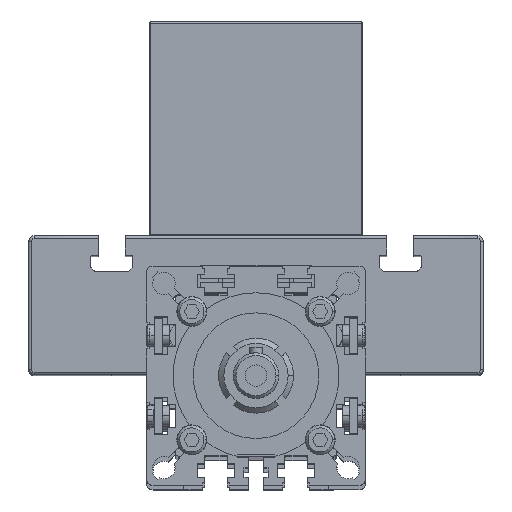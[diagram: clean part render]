
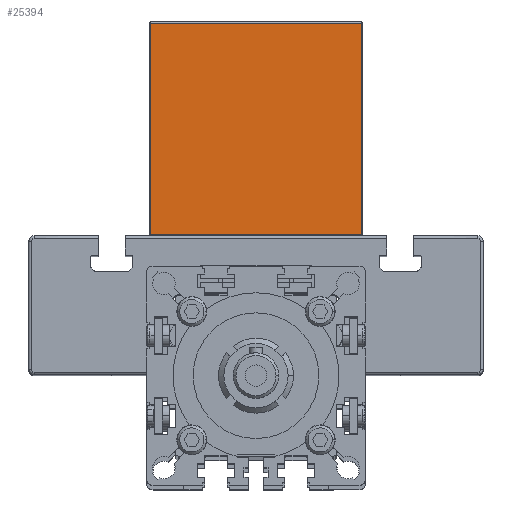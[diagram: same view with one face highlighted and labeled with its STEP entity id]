
A CAD part, top view. The second image highlights one B-rep face of the part: STEP entity #25394.
In plain terms, the highlighted planar face has unit normal (0, 0, 1) as drawn and (0, 0, -1) by its records, which use the part's own axes.
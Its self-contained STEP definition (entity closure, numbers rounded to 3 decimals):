
#2024 = ORIENTED_EDGE ( 'NONE', *, *, #29422, .T. ) ;
#2273 = ORIENTED_EDGE ( 'NONE', *, *, #8735, .T. ) ;
#2454 = AXIS2_PLACEMENT_3D ( 'NONE', #6041, #14232, #17527 ) ;
#2479 = VERTEX_POINT ( 'NONE', #38007 ) ;
#3047 = VERTEX_POINT ( 'NONE', #21881 ) ;
#3785 = CARTESIAN_POINT ( 'NONE',  ( 0., 0.5, -65. ) ) ;
#5217 = CARTESIAN_POINT ( 'NONE',  ( 80., 79.5, -65. ) ) ;
#5749 = LINE ( 'NONE', #8491, #8841 ) ;
#6041 = CARTESIAN_POINT ( 'NONE',  ( 80., 0., -65. ) ) ;
#6370 = ORIENTED_EDGE ( 'NONE', *, *, #21994, .T. ) ;
#8389 = PLANE ( 'NONE',  #2454 ) ;
#8491 = CARTESIAN_POINT ( 'NONE',  ( 79.5, 0., -65. ) ) ;
#8735 = EDGE_CURVE ( 'NONE', #3047, #2479, #37005, .T. ) ;
#8841 = VECTOR ( 'NONE', #20381, 1000. ) ;
#10775 = VERTEX_POINT ( 'NONE', #31183 ) ;
#13971 = LINE ( 'NONE', #29639, #27473 ) ;
#14232 = DIRECTION ( 'NONE',  ( 0., 0., 1. ) ) ;
#17527 = DIRECTION ( 'NONE',  ( 1., 0., 0. ) ) ;
#19696 = CARTESIAN_POINT ( 'NONE',  ( 0.5, 79.5, -65. ) ) ;
#20381 = DIRECTION ( 'NONE',  ( 0., -1., 0. ) ) ;
#21535 = VECTOR ( 'NONE', #25263, 1000. ) ;
#21881 = CARTESIAN_POINT ( 'NONE',  ( 79.5, 0.5, -65. ) ) ;
#21994 = EDGE_CURVE ( 'NONE', #28871, #10775, #32000, .T. ) ;
#23030 = ORIENTED_EDGE ( 'NONE', *, *, #35156, .T. ) ;
#25263 = DIRECTION ( 'NONE',  ( -1., 0., 0. ) ) ;
#25394 = ADVANCED_FACE ( 'NONE', ( #25999 ), #8389, .F. ) ;
#25924 = DIRECTION ( 'NONE',  ( 0., 1., 0. ) ) ;
#25999 = FACE_OUTER_BOUND ( 'NONE', #26286, .T. ) ;
#26286 = EDGE_LOOP ( 'NONE', ( #23030, #2273, #2024, #6370 ) ) ;
#27473 = VECTOR ( 'NONE', #25924, 1000. ) ;
#28871 = VERTEX_POINT ( 'NONE', #19696 ) ;
#29072 = DIRECTION ( 'NONE',  ( 1., 0., 0. ) ) ;
#29422 = EDGE_CURVE ( 'NONE', #2479, #28871, #13971, .T. ) ;
#29639 = CARTESIAN_POINT ( 'NONE',  ( 0.5, 0., -65. ) ) ;
#31183 = CARTESIAN_POINT ( 'NONE',  ( 79.5, 79.5, -65. ) ) ;
#32000 = LINE ( 'NONE', #5217, #34147 ) ;
#34147 = VECTOR ( 'NONE', #29072, 1000. ) ;
#35156 = EDGE_CURVE ( 'NONE', #10775, #3047, #5749, .T. ) ;
#37005 = LINE ( 'NONE', #3785, #21535 ) ;
#38007 = CARTESIAN_POINT ( 'NONE',  ( 0.5, 0.5, -65. ) ) ;
